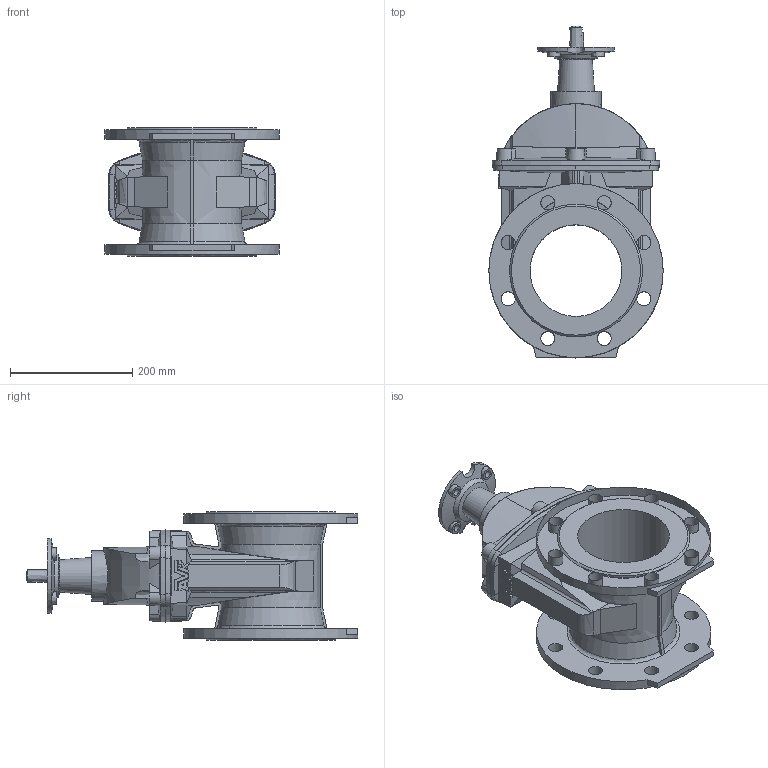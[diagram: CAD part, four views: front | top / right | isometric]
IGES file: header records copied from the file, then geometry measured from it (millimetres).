
Start section: SolidWorks IGES file using analytic representation for surfaces
Global section: file name: \\avksan2\techshare\PBM outline export from Enovia\O_15_42_DN150_X1XXX099_AA0.igs; native system: SolidWorks 2012; preprocessor: SolidWorks 2012; author: pbm; date: 170310.094022; units: inch
Bounding box: 285 x 542.5 x 210 mm (x, y, z)
Surface area: 615322.9 mm2 (no closed solid volume)
Topology: 0 solids, 0 shells, 356 faces, 2124 edges, 2057 vertices
Faces by surface type: revolution 179, bspline 177
